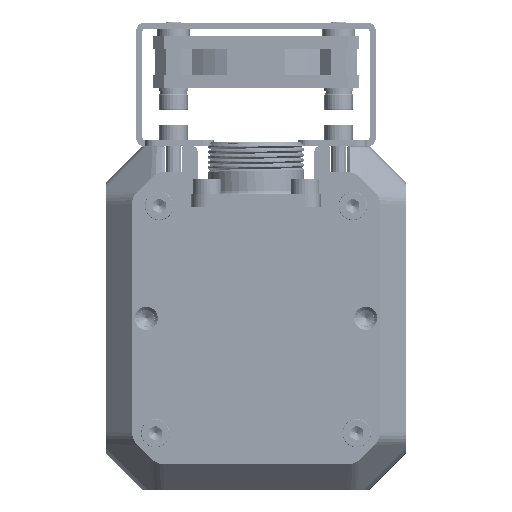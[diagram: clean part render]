
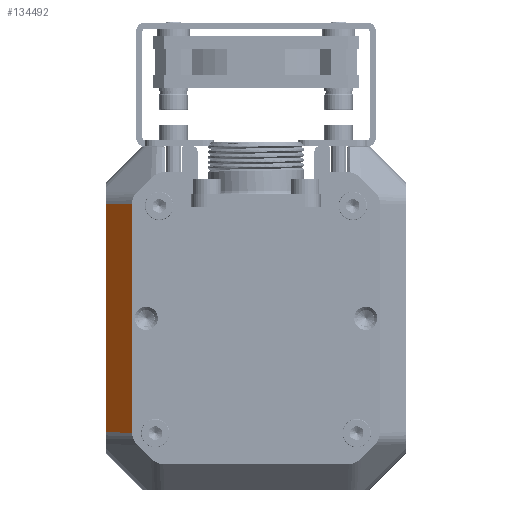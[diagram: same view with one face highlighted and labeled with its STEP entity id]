
A CAD part, front view. The second image highlights one B-rep face of the part: STEP entity #134492.
In plain terms, the highlighted planar face has unit normal (-0.707, -0.707, 0).
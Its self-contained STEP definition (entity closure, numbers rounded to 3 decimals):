
#17947=CARTESIAN_POINT('',(-24.,-785.,-55.435));
#17955=DIRECTION('',(0.707,-0.707,-0.02));
#17956=VECTOR('',#17955,7.072);
#17957=CARTESIAN_POINT('',(-29.,-780.,-55.297));
#17958=LINE('',#17957,#17956);
#17959=DIRECTION('',(0.,0.,-1.));
#17960=VECTOR('',#17959,44.094);
#17961=CARTESIAN_POINT('',(-29.,-780.,-11.203));
#17962=LINE('',#17961,#17960);
#17963=DIRECTION('',(-0.707,0.707,-0.02));
#17964=VECTOR('',#17963,7.072);
#17965=CARTESIAN_POINT('',(-24.,-785.,-11.065));
#17966=LINE('',#17965,#17964);
#17967=DIRECTION('',(0.,0.,1.));
#17968=VECTOR('',#17967,44.371);
#17969=CARTESIAN_POINT('',(-24.,-785.,-55.435));
#17970=LINE('',#17969,#17968);
#17981=CARTESIAN_POINT('',(-29.,-780.,-11.203));
#86749=VERTEX_POINT('',#17947);
#86750=CARTESIAN_POINT('',(-24.,-785.,-11.065));
#86751=VERTEX_POINT('',#86750);
#86961=VERTEX_POINT('',#17981);
#86962=CARTESIAN_POINT('',(-29.,-780.,-55.297));
#86963=VERTEX_POINT('',#86962);
#134479=CARTESIAN_POINT('',(-26.5,-782.5,-33.25));
#134480=DIRECTION('',(-0.707,-0.707,0.));
#134481=DIRECTION('',(-0.707,0.707,0.));
#134482=AXIS2_PLACEMENT_3D('',#134479,#134480,#134481);
#134483=PLANE('',#134482);
#134484=ORIENTED_EDGE('',*,*,#134463,.F.);
#134485=ORIENTED_EDGE('',*,*,#113244,.F.);
#134487=ORIENTED_EDGE('',*,*,#134486,.F.);
#134489=ORIENTED_EDGE('',*,*,#134488,.F.);
#134490=EDGE_LOOP('',(#134484,#134485,#134487,#134489));
#134491=FACE_OUTER_BOUND('',#134490,.F.);
#113244=EDGE_CURVE('',#86961,#86963,#17962,.T.);
#134463=EDGE_CURVE('',#86963,#86749,#17958,.T.);
#134486=EDGE_CURVE('',#86751,#86961,#17966,.T.);
#134488=EDGE_CURVE('',#86749,#86751,#17970,.T.);
#134492=ADVANCED_FACE('',(#134491),#134483,.T.);
